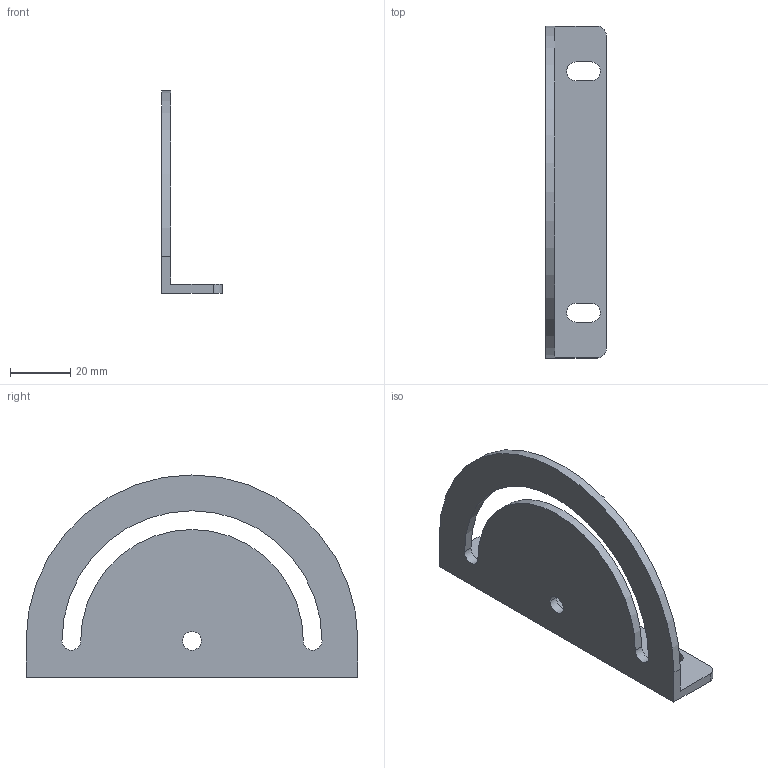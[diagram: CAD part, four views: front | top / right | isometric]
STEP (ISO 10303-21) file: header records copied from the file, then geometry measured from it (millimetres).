
FILE_DESCRIPTION (( 'STEP AP203' ), '1' );
FILE_NAME ('àðò. 2049.STEP', '2016-02-04T08:11:37', ( '' ), ( '' ), 'SwSTEP 2.0', 'SolidWorks 2014', '' );
FILE_SCHEMA (( 'CONFIG_CONTROL_DESIGN' ));
Length unit declared in the file: millimetre
Products named in the file (1): àðò. 2049
Bounding box: 20 x 110 x 67 mm (x, y, z)
Volume: 20927.8 mm3; surface area: 16014.2 mm2
Topology: 1 solids, 1 shells, 26 faces, 72 edges, 48 vertices
Faces by surface type: cylinder 15, plane 11
Entity records: 939 total; most frequent: DIRECTION 156, CARTESIAN_POINT 147, ORIENTED_EDGE 144, EDGE_CURVE 72, AXIS2_PLACEMENT_3D 57, VERTEX_POINT 48, LINE 42, VECTOR 42
